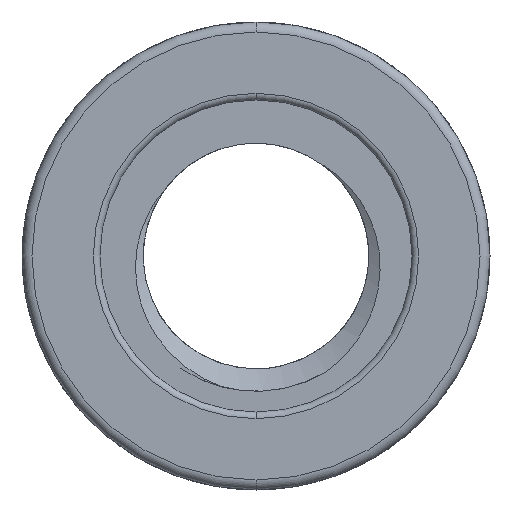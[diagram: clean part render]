
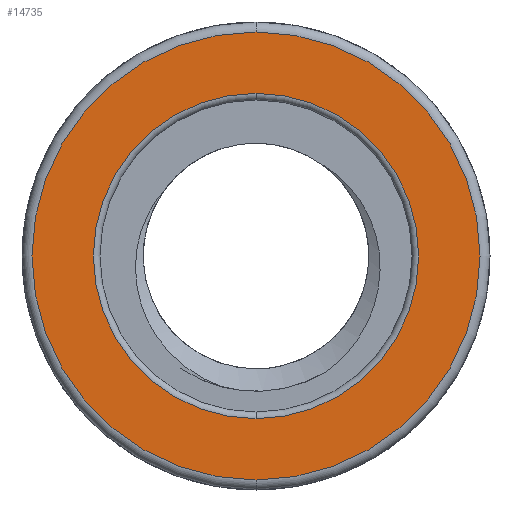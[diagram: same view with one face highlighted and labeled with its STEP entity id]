
A CAD part, front view. The second image highlights one B-rep face of the part: STEP entity #14735.
In plain terms, the highlighted planar face has unit normal (0, -1, 0).
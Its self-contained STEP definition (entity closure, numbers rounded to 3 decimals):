
#2021 = DIRECTION ( 'NONE',  ( 0., 0., -1. ) ) ;
#2783 = DIRECTION ( 'NONE',  ( 0., 0., -1. ) ) ;
#3194 = DIRECTION ( 'NONE',  ( 0., -1., 0. ) ) ;
#4857 = VERTEX_POINT ( 'NONE', #50003 ) ;
#7244 = FACE_BOUND ( 'NONE', #48612, .T. ) ;
#7526 = FACE_OUTER_BOUND ( 'NONE', #30195, .T. ) ;
#8132 = EDGE_CURVE ( 'NONE', #48965, #4857, #47389, .T. ) ;
#9446 = AXIS2_PLACEMENT_3D ( 'NONE', #28075, #15034, #2021 ) ;
#12737 = CARTESIAN_POINT ( 'NONE',  ( 0., 0., -7.05 ) ) ;
#12809 = EDGE_CURVE ( 'NONE', #4857, #48965, #54431, .T. ) ;
#13727 = CARTESIAN_POINT ( 'NONE',  ( 0., 0., 4.9 ) ) ;
#14735 = ADVANCED_FACE ( 'NONE', ( #7244, #7526 ), #16222, .T. ) ;
#15034 = DIRECTION ( 'NONE',  ( 0., -1., 0. ) ) ;
#15090 = DIRECTION ( 'NONE',  ( 0., 1., 0. ) ) ;
#16199 = CARTESIAN_POINT ( 'NONE',  ( 0., 0., 0. ) ) ;
#16222 = PLANE ( 'NONE',  #55553 ) ;
#19145 = CARTESIAN_POINT ( 'NONE',  ( 0., 0., 0. ) ) ;
#19864 = DIRECTION ( 'NONE',  ( 0., 1., 0. ) ) ;
#20268 = AXIS2_PLACEMENT_3D ( 'NONE', #16199, #33857, #51554 ) ;
#21179 = EDGE_CURVE ( 'NONE', #56912, #43345, #51591, .T. ) ;
#21375 = CARTESIAN_POINT ( 'NONE',  ( 0., 0., -4.9 ) ) ;
#22996 = ORIENTED_EDGE ( 'NONE', *, *, #40151, .T. ) ;
#24224 = ORIENTED_EDGE ( 'NONE', *, *, #8132, .T. ) ;
#28075 = CARTESIAN_POINT ( 'NONE',  ( 0., 0., 0. ) ) ;
#30195 = EDGE_LOOP ( 'NONE', ( #24224, #54755 ) ) ;
#32119 = AXIS2_PLACEMENT_3D ( 'NONE', #19145, #15090, #35956 ) ;
#33439 = CARTESIAN_POINT ( 'NONE',  ( 0., 0., -6.75 ) ) ;
#33857 = DIRECTION ( 'NONE',  ( 0., -1., 0. ) ) ;
#35956 = DIRECTION ( 'NONE',  ( 0., 0., -1. ) ) ;
#38501 = CIRCLE ( 'NONE', #53466, 4.9 ) ;
#40151 = EDGE_CURVE ( 'NONE', #43345, #56912, #38501, .T. ) ;
#41320 = ORIENTED_EDGE ( 'NONE', *, *, #21179, .T. ) ;
#43345 = VERTEX_POINT ( 'NONE', #21375 ) ;
#43455 = DIRECTION ( 'NONE',  ( 0., 0., -1. ) ) ;
#46532 = CARTESIAN_POINT ( 'NONE',  ( 0., 0., 0. ) ) ;
#47389 = CIRCLE ( 'NONE', #9446, 6.75 ) ;
#48612 = EDGE_LOOP ( 'NONE', ( #22996, #41320 ) ) ;
#48965 = VERTEX_POINT ( 'NONE', #33439 ) ;
#50003 = CARTESIAN_POINT ( 'NONE',  ( 0., 0., 6.75 ) ) ;
#51554 = DIRECTION ( 'NONE',  ( 0., 0., -1. ) ) ;
#51591 = CIRCLE ( 'NONE', #32119, 4.9 ) ;
#53466 = AXIS2_PLACEMENT_3D ( 'NONE', #46532, #19864, #2783 ) ;
#54431 = CIRCLE ( 'NONE', #20268, 6.75 ) ;
#54755 = ORIENTED_EDGE ( 'NONE', *, *, #12809, .T. ) ;
#55553 = AXIS2_PLACEMENT_3D ( 'NONE', #12737, #3194, #43455 ) ;
#56912 = VERTEX_POINT ( 'NONE', #13727 ) ;
